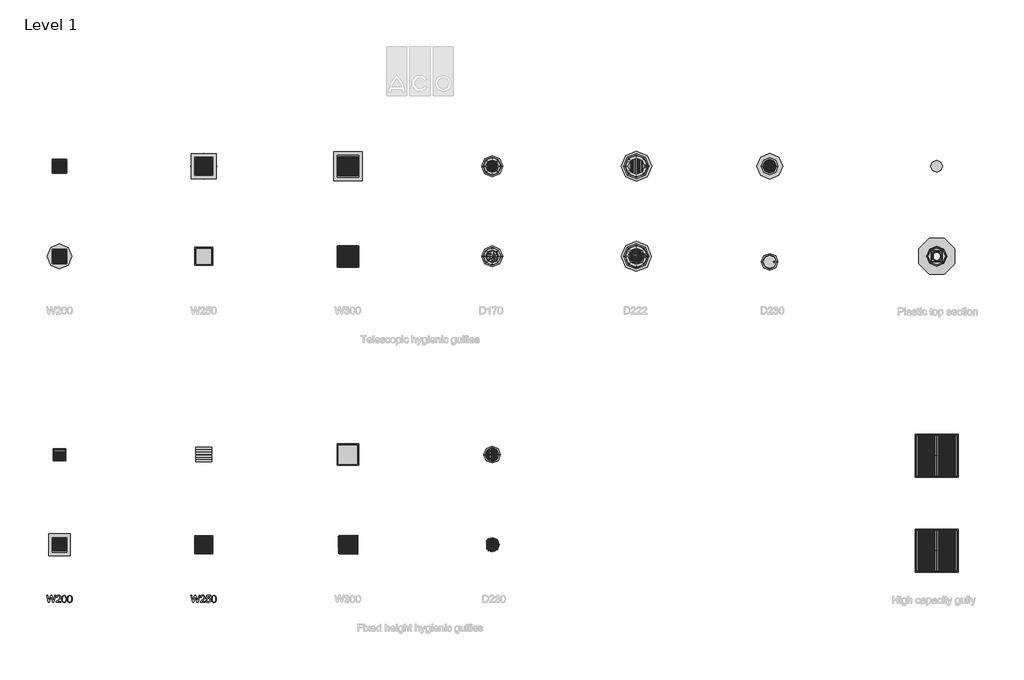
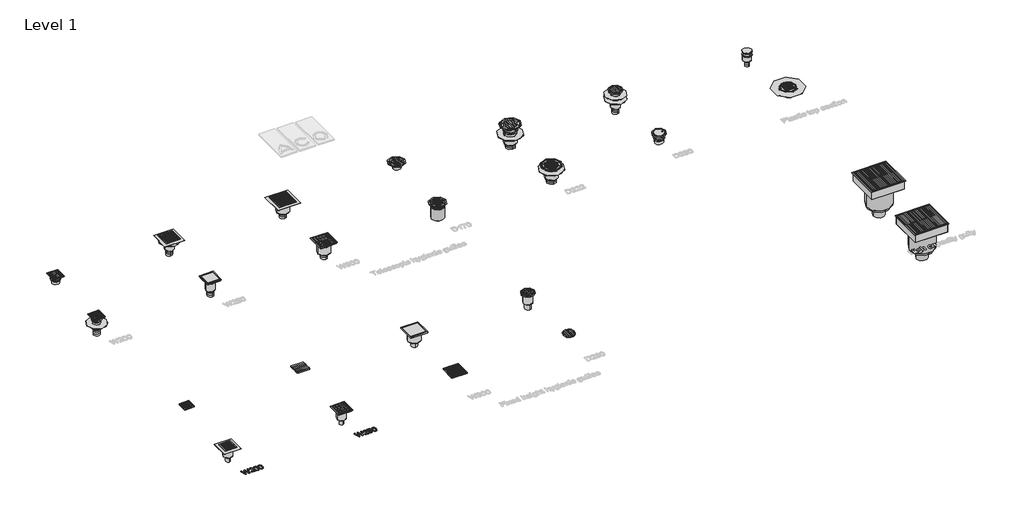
# One storey, part 1 of 4: 69 sanitary terminals, 2 proxies, 1 damper.
"""IFC4 building model written with IfcOpenShell, lengths in millimetres."""

from ifc_helpers import new_model, si_unit, origin, origin_with_axes, place, context, project, spatial, polyline, outline, extrude, transform, mapped, element, save
from components import std_nested_5fa89a83, sanitary_terminal_82e209ba, std_nested_0eeefa5e, std_nested_6499384f, std_nested_efb698b0, std_nested_4763630c, std_nested_079e4442, std_nested_413075a2, std_nested_2be02d67, std_nested_8abb2362, std_nested_245f124b, std_nested_c32a463d, std_nested_9cee5a2e, std_nested_9b02ec69, std_nested_d3c4a1f5, std_nested_b19227e2, std_nested_4e44c4c3, std_nested_489a93e3, std_nested_592c855f, std_nested_7deef7a1, std_nested_e0442021, std_nested_d5818558, std_nested_d116548a, std_nested_70ec9771, std_nested_57f2950a, std_nested_2ee354ad, std_nested_b8717db3, std_nested_406fe5f1, std_nested_98c6a3e6, std_nested_e2511e1a, std_nested_8b3f8c66, std_nested_275881f0, std_nested_45a2f4f4, std_nested_3aef32b5, std_nested_9901e309, std_nested_918f101b, std_nested_27eed14b, std_nested_ff023d64, std_nested_d4b4db04, std_nested_a31448ca, std_nested_1c124e65, std_nested_6d645567, std_nested_c48ed7b9, std_nested_2204cd7f, std_nested_a4153f76, std_nested_3e81e737, std_nested_233757a9, std_nested_0e59ff56

model = new_model("IFC4")

# Units and contexts
model_context = context("Model", 3, world=origin())
ifc_project = project(units=[si_unit("LENGTHUNIT", "METRE", prefix="MILLI")], contexts=[model_context])

# Site, building, storey
site = spatial("IfcSite", under=ifc_project)
building = spatial("IfcBuilding", under=site)
storey = spatial("IfcBuildingStorey", under=building, Name="Level 1", Elevation=0.0)

# Proxies
placement = place(None, origin())
element("IfcBuildingElementProxy", 1, Name="100mm ACO", ObjectType="100mm ACO", at=placement, inside=storey, context=model_context, shape_type="SweptSolid", body=[
    extrude(outline(polyline([(-4051.8518519, -6500.0), (-4078.0092593, -6600.0), (-4093.8657407, -6600.0), (-4113.744213, -6521.1516204), (-4115.7407407, -6511.9502315), (-4118.75, -6523.8136574), (-4139.6990741, -6600.0), (-4153.587963, -6600.0), (-4179.6296296, -6500.0), (-4166.3194444, -6500.0), (-4151.1863426, -6565.6828704), (-4147.3668981, -6584.6643519), (-4142.7083333, -6567.505787), (-4123.8425926, -6500.0), (-4107.494213, -6500.0), (-4093.8078704, -6550.6076389), (-4086.3715278, -6586.1111111), (-4081.25, -6564.3229167), (-4065.2199074, -6500.0), (-4051.8518519, -6500.0)])), origin_with_axes(), (0.0, 0.0, 1.0), 10.0),
    extrude(outline(polyline([(-3981.4814815, -6600.0), (-4048.1481481, -6600.0), (-4042.1875, -6584.4039352), (-4020.1678241, -6562.7893519), (-4002.4016204, -6545.4571759), (-3996.4337384, -6536.4293981), (-3994.4444444, -6527.34375), (-3999.8697917, -6514.380787), (-4013.5706019, -6509.2592593), (-4027.6041667, -6514.3663194), (-4031.8721065, -6520.7356771), (-4033.3333333, -6529.6296296), (-4046.2962963, -6528.2407407), (-4043.1568287, -6516.1385995), (-4036.1111111, -6507.2627315), (-4025.8969907, -6501.8156829), (-4013.2523148, -6500.0), (-3999.89511, -6502.0869502), (-3989.8582176, -6508.3478009), (-3983.5756655, -6517.5600405), (-3981.4814815, -6528.5011574), (-3983.2320602, -6538.4042245), (-3988.4837963, -6548.4375), (-4015.9143519, -6575.9548611), (-4031.4814815, -6590.7407407), (-3981.4814815, -6590.7407407), (-3981.4814815, -6600.0)])), origin_with_axes(), (0.0, 0.0, 1.0), 10.0),
    extrude(outline(polyline([(-3935.2141204, -6500.0), (-3920.6181279, -6503.1864873), (-3910.192419, -6512.7459491), (-3903.9369936, -6528.6783854), (-3901.8518519, -6550.9837963), (-3904.0075231, -6573.4555845), (-3910.474537, -6589.3084491), (-3920.9707755, -6598.7160012), (-3935.2141204, -6601.8518519), (-3949.7847946, -6598.6725984), (-3960.192419, -6589.134838), (-3966.4369936, -6573.2385706), (-3968.5185185, -6550.9837963), (-3966.3628472, -6528.515625), (-3959.8958333, -6512.6157407), (-3949.4140625, -6503.1539352), (-3935.2141204, -6500.0)]), holes=[polyline([(-3935.1851852, -6592.5925926), (-3926.3454861, -6590.1584201), (-3919.9652778, -6582.8559028), (-3916.1024306, -6570.0195312), (-3914.8148148, -6550.9837963), (-3917.0717593, -6526.7650463), (-3923.8859954, -6513.599537), (-3935.3298611, -6509.2592593), (-3944.1514757, -6511.7368345), (-3950.4774306, -6519.1695602), (-3954.2860243, -6532.0782697), (-3955.5555556, -6550.9837963), (-3953.2552083, -6575.0434028), (-3946.4409722, -6588.2523148), (-3935.1851852, -6592.5925926)])]), origin_with_axes(), (0.0, 0.0, 1.0), 10.0),
    extrude(outline(polyline([(-3857.4363426, -6500.0), (-3842.8403501, -6503.1864873), (-3832.4146412, -6512.7459491), (-3826.1592159, -6528.6783854), (-3824.0740741, -6550.9837963), (-3826.2297454, -6573.4555845), (-3832.6967593, -6589.3084491), (-3843.1929977, -6598.7160012), (-3857.4363426, -6601.8518519), (-3872.0070168, -6598.6725984), (-3882.4146412, -6589.134838), (-3888.6592159, -6573.2385706), (-3890.7407407, -6550.9837963), (-3888.5850694, -6528.515625), (-3882.1180556, -6512.6157407), (-3871.6362847, -6503.1539352), (-3857.4363426, -6500.0)]), holes=[polyline([(-3857.4074074, -6592.5925926), (-3848.5677083, -6590.1584201), (-3842.1875, -6582.8559028), (-3838.3246528, -6570.0195312), (-3837.037037, -6550.9837963), (-3839.2939815, -6526.7650463), (-3846.1082176, -6513.599537), (-3857.5520833, -6509.2592593), (-3866.3736979, -6511.7368345), (-3872.6996528, -6519.1695602), (-3876.5082465, -6532.0782697), (-3877.7777778, -6550.9837963), (-3875.4774306, -6575.0434028), (-3868.6631944, -6588.2523148), (-3857.4074074, -6592.5925926)])]), origin_with_axes(), (0.0, 0.0, 1.0), 10.0),
])
element("IfcBuildingElementProxy", 2, Name="100mm ACO", ObjectType="100mm ACO", at=placement, inside=storey, context=model_context, shape_type="SweptSolid", body=[
    extrude(outline(polyline([(-2051.8518519, -6500.0), (-2078.0092593, -6600.0), (-2093.8657407, -6600.0), (-2113.744213, -6521.1516204), (-2115.7407407, -6511.9502315), (-2118.75, -6523.8136574), (-2139.6990741, -6600.0), (-2153.587963, -6600.0), (-2179.6296296, -6500.0), (-2166.3194444, -6500.0), (-2151.1863426, -6565.6828704), (-2147.3668981, -6584.6643519), (-2142.7083333, -6567.505787), (-2123.8425926, -6500.0), (-2107.494213, -6500.0), (-2093.8078704, -6550.6076389), (-2086.3715278, -6586.1111111), (-2081.25, -6564.3229167), (-2065.2199074, -6500.0), (-2051.8518519, -6500.0)])), origin_with_axes(), (0.0, 0.0, 1.0), 10.0),
    extrude(outline(polyline([(-1981.4814815, -6600.0), (-2048.1481481, -6600.0), (-2042.1875, -6584.4039352), (-2020.1678241, -6562.7893519), (-2002.4016204, -6545.4571759), (-1996.4337384, -6536.4293981), (-1994.4444444, -6527.34375), (-1999.8697917, -6514.380787), (-2013.5706019, -6509.2592593), (-2027.6041667, -6514.3663194), (-2031.8721065, -6520.7356771), (-2033.3333333, -6529.6296296), (-2046.2962963, -6528.2407407), (-2043.1568287, -6516.1385995), (-2036.1111111, -6507.2627315), (-2025.8969907, -6501.8156829), (-2013.2523148, -6500.0), (-1999.89511, -6502.0869502), (-1989.8582176, -6508.3478009), (-1983.5756655, -6517.5600405), (-1981.4814815, -6528.5011574), (-1983.2320602, -6538.4042245), (-1988.4837963, -6548.4375), (-2015.9143519, -6575.9548611), (-2031.4814815, -6590.7407407), (-1981.4814815, -6590.7407407), (-1981.4814815, -6600.0)])), origin_with_axes(), (0.0, 0.0, 1.0), 10.0),
    extrude(outline(polyline([(-1951.0416667, -6537.8761574), (-1932.3784722, -6533.3333333), (-1920.8948206, -6535.5577257), (-1910.9809028, -6542.2309028), (-1904.1341146, -6552.6077836), (-1901.8518519, -6565.943287), (-1904.2209201, -6579.7815394), (-1911.328125, -6591.3773148), (-1922.2764757, -6599.2332176), (-1936.1689815, -6601.8518519), (-1947.9094329, -6600.0434028), (-1957.9571759, -6594.6180556), (-1965.198206, -6585.6481481), (-1968.5185185, -6573.2060185), (-1955.5555556, -6572.2222222), (-1948.7847222, -6587.5434028), (-1936.0243056, -6592.5925926), (-1927.4594907, -6590.7190394), (-1920.6886574, -6585.0983796), (-1916.2832755, -6576.7361111), (-1914.8148148, -6566.6377315), (-1916.2868924, -6556.6695602), (-1920.703125, -6549.0451389), (-1927.4341725, -6544.2057292), (-1935.8506944, -6542.5925926), (-1946.1877894, -6544.9435764), (-1953.8194444, -6551.9965278), (-1966.6666667, -6550.4918981), (-1956.9733796, -6501.8518519), (-1905.5555556, -6501.8518519), (-1905.5555556, -6511.1111111), (-1945.6886574, -6511.1111111), (-1951.0416667, -6537.8761574)])), origin_with_axes(), (0.0, 0.0, 1.0), 10.0),
    extrude(outline(polyline([(-1857.4363426, -6500.0), (-1842.8403501, -6503.1864873), (-1832.4146412, -6512.7459491), (-1826.1592159, -6528.6783854), (-1824.0740741, -6550.9837963), (-1826.2297454, -6573.4555845), (-1832.6967593, -6589.3084491), (-1843.1929977, -6598.7160012), (-1857.4363426, -6601.8518519), (-1872.0070168, -6598.6725984), (-1882.4146412, -6589.134838), (-1888.6592159, -6573.2385706), (-1890.7407407, -6550.9837963), (-1888.5850694, -6528.515625), (-1882.1180556, -6512.6157407), (-1871.6362847, -6503.1539352), (-1857.4363426, -6500.0)]), holes=[polyline([(-1857.4074074, -6592.5925926), (-1848.5677083, -6590.1584201), (-1842.1875, -6582.8559028), (-1838.3246528, -6570.0195312), (-1837.037037, -6550.9837963), (-1839.2939815, -6526.7650463), (-1846.1082176, -6513.599537), (-1857.5520833, -6509.2592593), (-1866.3736979, -6511.7368345), (-1872.6996528, -6519.1695602), (-1876.5082465, -6532.0782697), (-1877.7777778, -6550.9837963), (-1875.4774306, -6575.0434028), (-1868.6631944, -6588.2523148), (-1857.4074074, -6592.5925926)])]), origin_with_axes(), (0.0, 0.0, 1.0), 10.0),
])

# Damper
std_nested_shape = std_nested_5fa89a83(model_context)
element("IfcDamper", 3, ObjectType="ZZZ_do_not_use_PIA_GEN_UN_fire resistant kit for hygienic gullies_ACO : std (nested)", at=placement, inside=storey, context=model_context, shape_type="MappedRepresentation", body=[
    mapped(std_nested_shape, transform((2000.0, -1800.0, -60.0), x_axis=(1.0, 0.0, 0.0), y_axis=(0.0, 1.0, 0.0), z_axis=(0.0, 0.0, 1.0))),
])

# Sanitary terminals
sanitary_terminal_shape = sanitary_terminal_82e209ba(model_context)
element("IfcSanitaryTerminal", 4, ObjectType="PF_ST_UN_fixed height hygienic gully D230_ACO : D230 grade 1.4301 fixed-height round hygienic gully 157 outlet 110", at=placement, inside=storey, context=model_context, shape_type="MappedRepresentation", body=[
    mapped(sanitary_terminal_shape, transform((2000.0, -5800.0, 0.0), x_axis=(1.0, 0.0, 0.0), y_axis=(0.0, 1.0, 0.0), z_axis=(0.0, 0.0, 1.0))),
])
element("IfcSanitaryTerminal", 5, ObjectType="PF_ST_UN_fixed height hygienic gully D230_ACO : D230 grade 1.4404 fixed-height round hygienic gully 157 outlet 110", at=placement, inside=storey, context=model_context, shape_type="MappedRepresentation", body=[
    mapped(sanitary_terminal_shape, transform((2000.0, -4550.0, 0.0), x_axis=(1.0, 0.0, 0.0), y_axis=(0.0, 1.0, 0.0), z_axis=(0.0, 0.0, 1.0))),
])
element("IfcSanitaryTerminal", 6, ObjectType="PF_ST_UN_fixed height hygienic gully W200_ACO : W200 grade 1.4301 fixed height hygienic gully 142 outlet 75", at=placement, inside=storey, context=model_context, shape_type="MappedRepresentation", body=[
    mapped(sanitary_terminal_shape, transform((-4000.0, -4550.0, 0.0), x_axis=(1.0, 0.0, 0.0), y_axis=(0.0, 1.0, 0.0), z_axis=(0.0, 0.0, 1.0))),
])
element("IfcSanitaryTerminal", 7, ObjectType="PF_ST_UN_fixed height hygienic gully W200_ACO : W200 grade 1.4404 fixed height hygienic gully 157 outlet 75", at=placement, inside=storey, context=model_context, shape_type="MappedRepresentation", body=[
    mapped(sanitary_terminal_shape, transform((-4000.0, -5800.0, 0.0), x_axis=(1.0, 0.0, 0.0), y_axis=(0.0, 1.0, 0.0), z_axis=(0.0, 0.0, 1.0))),
])
element("IfcSanitaryTerminal", 8, ObjectType="PF_ST_UN_fixed height hygienic gully W250_ACO : W250 grade 1.4301 fixed height hygienic gully 157 outlet 75", at=placement, inside=storey, context=model_context, shape_type="MappedRepresentation", body=[
    mapped(sanitary_terminal_shape, transform((-2000.0, -5800.0, 0.0), x_axis=(1.0, 0.0, 0.0), y_axis=(0.0, 1.0, 0.0), z_axis=(0.0, 0.0, 1.0))),
])
element("IfcSanitaryTerminal", 9, ObjectType="PF_ST_UN_fixed height hygienic gully W250_ACO : W250 grade 1.4301 fixed height hygienic gully 157 outlet 75", at=placement, inside=storey, context=model_context, shape_type="MappedRepresentation", body=[
    mapped(sanitary_terminal_shape, transform((-2000.0, -4550.0, 0.0), x_axis=(1.0, 0.0, 0.0), y_axis=(0.0, 1.0, 0.0), z_axis=(0.0, 0.0, 1.0))),
])
element("IfcSanitaryTerminal", 10, ObjectType="PF_ST_UN_fixed height hygienic gully W300_ACO : W300 grade 1.4301 fixed height hygienic gully 218 outlet 110", at=placement, inside=storey, context=model_context, shape_type="MappedRepresentation", body=[
    mapped(sanitary_terminal_shape, transform((0.0, -4550.0, 0.0), x_axis=(1.0, 0.0, 0.0), y_axis=(0.0, 1.0, 0.0), z_axis=(0.0, 0.0, 1.0))),
])
element("IfcSanitaryTerminal", 11, ObjectType="PF_ST_UN_fixed height hygienic gully W300_ACO : W300 grade 1.4301 fixed height hygienic gully 218 outlet 110", at=placement, inside=storey, context=model_context, shape_type="MappedRepresentation", body=[
    mapped(sanitary_terminal_shape, transform((0.0, -5800.0, 0.0), x_axis=(1.0, 0.0, 0.0), y_axis=(0.0, 1.0, 0.0), z_axis=(0.0, 0.0, 1.0))),
])
element("IfcSanitaryTerminal", 12, ObjectType="PF_ST_UN_hygienic high capacity gully_ACO : W600 grade 1.4301 hygienic high capacity gully outlet 200", at=placement, inside=storey, context=model_context, shape_type="MappedRepresentation", body=[
    mapped(sanitary_terminal_shape, transform((8164.9259852, -5881.6953202, 0.0), x_axis=(1.0, 0.0, 0.0), y_axis=(0.0, 1.0, 0.0), z_axis=(0.0, 0.0, 1.0))),
])
element("IfcSanitaryTerminal", 13, ObjectType="PF_ST_UN_hygienic high capacity gully_ACO : W600 grade 1.4404 hygienic high capacity gully outlet 200", at=placement, inside=storey, context=model_context, shape_type="MappedRepresentation", body=[
    mapped(sanitary_terminal_shape, transform((8164.9259852, -4563.6158867, 0.0), x_axis=(1.0, 0.0, 0.0), y_axis=(0.0, 1.0, 0.0), z_axis=(0.0, 0.0, 1.0))),
])
std_nested_2_shape = std_nested_0eeefa5e(model_context)
element("IfcSanitaryTerminal", 14, ObjectType="ZZZ_do not use_PF_ST_UN_round grating for vinyl top_ACO : std (nested)", at=placement, inside=storey, context=model_context, shape_type="MappedRepresentation", body=[
    mapped(std_nested_2_shape, transform((2000.0, -1800.0, 0.0), x_axis=(1.0, 0.0, 0.0), y_axis=(0.0, 1.0, 0.0), z_axis=(0.0, 0.0, 1.0))),
])
std_nested_3_shape = std_nested_6499384f(model_context)
element("IfcSanitaryTerminal", 15, ObjectType="ZZZ_do not use_PF_ST_UN_round grating for vinyl top_ACO : std (nested)", at=placement, inside=storey, context=model_context, shape_type="MappedRepresentation", body=[
    mapped(std_nested_3_shape, transform((4000.0, -1800.0, 0.0), x_axis=(1.0, 0.0, 0.0), y_axis=(0.0, 1.0, 0.0), z_axis=(0.0, 0.0, 1.0))),
])
std_nested_4_shape = std_nested_efb698b0(model_context)
element("IfcSanitaryTerminal", 16, ObjectType="ZZZ_do not use_PF_ST_UN_round grating for vinyl top_ACO : std (nested)", at=placement, inside=storey, context=model_context, shape_type="MappedRepresentation", body=[
    mapped(std_nested_4_shape, transform((2000.0, -550.0, 0.0), x_axis=(1.0, 0.0, 0.0), y_axis=(0.0, 1.0, 0.0), z_axis=(0.0, 0.0, 1.0))),
])
std_nested_5_shape = std_nested_4763630c(model_context)
element("IfcSanitaryTerminal", 17, ObjectType="ZZZ_do not use_PF_ST_UN_round grating for vinyl top_ACO : std (nested)", at=placement, inside=storey, context=model_context, shape_type="MappedRepresentation", body=[
    mapped(std_nested_5_shape, transform((4000.0, -550.0, 0.0), x_axis=(1.0, 0.0, 0.0), y_axis=(0.0, 1.0, 0.0), z_axis=(0.0, 0.0, 1.0))),
])
std_nested_6_shape = std_nested_079e4442(model_context)
element("IfcSanitaryTerminal", 18, ObjectType="ZZZ_do not use_PF_ST_UN_square grating for hygienic gully_ACO : std (nested)", at=placement, inside=storey, context=model_context, shape_type="MappedRepresentation", body=[
    mapped(std_nested_6_shape, transform((-2000.0, -5800.0, 0.0), x_axis=(1.0, 0.0, 0.0), y_axis=(0.0, 1.0, 0.0), z_axis=(0.0, 0.0, 1.0))),
])
std_nested_7_shape = std_nested_413075a2(model_context)
element("IfcSanitaryTerminal", 19, ObjectType="ZZZ_do not use_PF_ST_UN_square grating for hygienic gully_ACO : std (nested)", at=placement, inside=storey, context=model_context, shape_type="MappedRepresentation", body=[
    mapped(std_nested_7_shape, transform((-4000.0, -1800.0, 0.0), x_axis=(1.0, 0.0, 0.0), y_axis=(0.0, 1.0, 0.0), z_axis=(0.0, 0.0, 1.0))),
])
std_nested_8_shape = std_nested_2be02d67(model_context)
element("IfcSanitaryTerminal", 20, ObjectType="ZZZ_do not use_PF_ST_UN_square grating for hygienic gully_ACO : std (nested)", at=placement, inside=storey, context=model_context, shape_type="MappedRepresentation", body=[
    mapped(std_nested_8_shape, transform((-2000.0, -1800.0, 0.0), x_axis=(1.0, 0.0, 0.0), y_axis=(0.0, 1.0, 0.0), z_axis=(0.0, 0.0, 1.0))),
])
std_nested_9_shape = std_nested_8abb2362(model_context)
element("IfcSanitaryTerminal", 21, ObjectType="ZZZ_do not use_PF_ST_UN_square grating for hygienic gully_ACO : std (nested)", at=placement, inside=storey, context=model_context, shape_type="MappedRepresentation", body=[
    mapped(std_nested_9_shape, transform((0.0, -1800.0, 0.0), x_axis=(1.0, 0.0, 0.0), y_axis=(0.0, 1.0, 0.0), z_axis=(0.0, 0.0, 1.0))),
])
std_nested_10_shape = std_nested_245f124b(model_context)
element("IfcSanitaryTerminal", 22, ObjectType="ZZZ_do not use_PF_ST_UN_square grating for hygienic gully_ACO : std (nested)", at=placement, inside=storey, context=model_context, shape_type="MappedRepresentation", body=[
    mapped(std_nested_10_shape, transform((-4000.0, -4550.0, 0.0), x_axis=(1.0, 0.0, 0.0), y_axis=(0.0, 1.0, 0.0), z_axis=(0.0, 0.0, 1.0))),
])
std_nested_11_shape = std_nested_c32a463d(model_context)
element("IfcSanitaryTerminal", 23, ObjectType="ZZZ_do not use_PF_ST_UN_square grating for hygienic gully_ACO : std (nested)", at=placement, inside=storey, context=model_context, shape_type="MappedRepresentation", body=[
    mapped(std_nested_11_shape, transform((-2000.0, -4550.0, 0.0), x_axis=(1.0, 0.0, 0.0), y_axis=(0.0, 1.0, 0.0), z_axis=(0.0, 0.0, 1.0))),
])
std_nested_12_shape = std_nested_9cee5a2e(model_context)
element("IfcSanitaryTerminal", 24, ObjectType="ZZZ_do not use_PF_ST_UN_square grating for hygienic gully_ACO : std (nested)", at=placement, inside=storey, context=model_context, shape_type="MappedRepresentation", body=[
    mapped(std_nested_12_shape, transform((-4000.0, -550.0, 0.0), x_axis=(1.0, 0.0, 0.0), y_axis=(0.0, 1.0, 0.0), z_axis=(0.0, 0.0, 1.0))),
])
std_nested_13_shape = std_nested_9b02ec69(model_context)
element("IfcSanitaryTerminal", 25, ObjectType="ZZZ_do not use_PF_ST_UN_square grating for hygienic gully_ACO : std (nested)", at=placement, inside=storey, context=model_context, shape_type="MappedRepresentation", body=[
    mapped(std_nested_13_shape, transform((-2000.0, -550.0, 0.0), x_axis=(1.0, 0.0, 0.0), y_axis=(0.0, 1.0, 0.0), z_axis=(0.0, 0.0, 1.0))),
])
std_nested_14_shape = std_nested_d3c4a1f5(model_context)
element("IfcSanitaryTerminal", 26, ObjectType="ZZZ_do not use_PF_ST_UN_square grating for hygienic gully_ACO : std (nested)", at=placement, inside=storey, context=model_context, shape_type="MappedRepresentation", body=[
    mapped(std_nested_14_shape, transform((0.0, -550.0, 0.0), x_axis=(1.0, 0.0, 0.0), y_axis=(0.0, 1.0, 0.0), z_axis=(0.0, 0.0, 1.0))),
])
std_nested_15_shape = std_nested_b19227e2(model_context)
element("IfcSanitaryTerminal", 27, ObjectType="ZZZ_do not use_PF_ST_UN_telescopic gully top_ACO : std (nested)", at=placement, inside=storey, context=model_context, shape_type="MappedRepresentation", body=[
    mapped(std_nested_15_shape, transform((-4000.0, -1800.0, 0.0), x_axis=(1.0, 0.0, 0.0), y_axis=(0.0, 1.0, 0.0), z_axis=(0.0, 0.0, 1.0))),
])
std_nested_16_shape = std_nested_4e44c4c3(model_context)
element("IfcSanitaryTerminal", 28, ObjectType="ZZZ_do not use_PF_ST_UN_telescopic gully top_ACO : std (nested)", at=placement, inside=storey, context=model_context, shape_type="MappedRepresentation", body=[
    mapped(std_nested_16_shape, transform((-2000.0, -1800.0, 0.0), x_axis=(1.0, 0.0, 0.0), y_axis=(0.0, 1.0, 0.0), z_axis=(0.0, 0.0, 1.0))),
])
std_nested_17_shape = std_nested_489a93e3(model_context)
element("IfcSanitaryTerminal", 29, ObjectType="ZZZ_do not use_PF_ST_UN_telescopic gully top_ACO : std (nested)", at=placement, inside=storey, context=model_context, shape_type="MappedRepresentation", body=[
    mapped(std_nested_17_shape, transform((0.0, -1800.0, 0.0), x_axis=(1.0, 0.0, 0.0), y_axis=(0.0, 1.0, 0.0), z_axis=(0.0, 0.0, 1.0))),
])
element("IfcSanitaryTerminal", 30, ObjectType="ZZZ_do not use_PF_ST_UN_telescopic gully top_ACO : std (nested)", at=placement, inside=storey, context=model_context, shape_type="MappedRepresentation", body=[
    mapped(std_nested_15_shape, transform((-4000.0, -550.0, 0.0), x_axis=(1.0, 0.0, 0.0), y_axis=(0.0, 1.0, 0.0), z_axis=(0.0, 0.0, 1.0))),
])
std_nested_18_shape = std_nested_592c855f(model_context)
element("IfcSanitaryTerminal", 31, ObjectType="ZZZ_do not use_PF_ST_UN_telescopic gully top_ACO : std (nested)", at=placement, inside=storey, context=model_context, shape_type="MappedRepresentation", body=[
    mapped(std_nested_18_shape, transform((-2000.0, -550.0, 0.0), x_axis=(1.0, 0.0, 0.0), y_axis=(0.0, 1.0, 0.0), z_axis=(0.0, 0.0, 1.0))),
])
std_nested_19_shape = std_nested_7deef7a1(model_context)
element("IfcSanitaryTerminal", 32, ObjectType="ZZZ_do not use_PF_ST_UN_telescopic gully top_ACO : std (nested)", at=placement, inside=storey, context=model_context, shape_type="MappedRepresentation", body=[
    mapped(std_nested_19_shape, transform((0.0, -550.0, 0.0), x_axis=(1.0, 0.0, 0.0), y_axis=(0.0, 1.0, 0.0), z_axis=(0.0, 0.0, 1.0))),
])
std_nested_20_shape = std_nested_e0442021(model_context)
element("IfcSanitaryTerminal", 33, ObjectType="ZZZ_do not use_PF_ST_UN_telescopic hygienic gully_ACO : std (nested)", at=placement, inside=storey, context=model_context, shape_type="MappedRepresentation", body=[
    mapped(std_nested_20_shape, transform((-4000.0, -1800.0, -139.5), x_axis=(0.7071067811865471, 0.7071067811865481, 0.0), y_axis=(-0.7071067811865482, 0.7071067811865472, 0.0), z_axis=(0.0, 0.0, 1.0000000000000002))),
])
std_nested_21_shape = std_nested_d5818558(model_context)
element("IfcSanitaryTerminal", 34, ObjectType="ZZZ_do not use_PF_ST_UN_telescopic hygienic gully_ACO : std (nested)", at=placement, inside=storey, context=model_context, shape_type="MappedRepresentation", body=[
    mapped(std_nested_21_shape, transform((-2000.0, -1800.0, -56.5), x_axis=(1.0, 0.0, 0.0), y_axis=(0.0, 1.0, 0.0), z_axis=(0.0, 0.0, 1.0))),
])
std_nested_22_shape = std_nested_d116548a(model_context)
element("IfcSanitaryTerminal", 35, ObjectType="ZZZ_do not use_PF_ST_UN_telescopic hygienic gully_ACO : std (nested)", at=placement, inside=storey, context=model_context, shape_type="MappedRepresentation", body=[
    mapped(std_nested_22_shape, transform((0.0, -1800.0, -56.5), x_axis=(1.0, 0.0, 0.0), y_axis=(0.0, 1.0, 0.0), z_axis=(0.0, 0.0, 1.0))),
])
element("IfcSanitaryTerminal", 36, ObjectType="ZZZ_do not use_PF_ST_UN_telescopic hygienic gully_ACO : std (nested)", at=placement, inside=storey, context=model_context, shape_type="MappedRepresentation", body=[
    mapped(std_nested_22_shape, transform((0.0, -550.0, -57.5), x_axis=(1.0, 0.0, 0.0), y_axis=(0.0, 1.0, 0.0), z_axis=(0.0, 0.0, 1.0))),
])
std_nested_23_shape = std_nested_70ec9771(model_context)
element("IfcSanitaryTerminal", 37, ObjectType="ZZZ_do not use_PF_ST_UN_telescopic hygienic gully_ACO : std (nested)", at=placement, inside=storey, context=model_context, shape_type="MappedRepresentation", body=[
    mapped(std_nested_23_shape, transform((2000.0, -1800.0, -58.5), x_axis=(1.0, 0.0, 0.0), y_axis=(0.0, 1.0, 0.0), z_axis=(0.0, 0.0, 1.0))),
])
std_nested_24_shape = std_nested_57f2950a(model_context)
element("IfcSanitaryTerminal", 38, ObjectType="ZZZ_do not use_PF_ST_UN_telescopic hygienic gully_ACO : std (nested)", at=placement, inside=storey, context=model_context, shape_type="MappedRepresentation", body=[
    mapped(std_nested_24_shape, transform((-2000.0, -550.0, -56.5), x_axis=(1.0, 0.0, 0.0), y_axis=(0.0, 1.0, 0.0), z_axis=(0.0, 0.0, 1.0))),
])
std_nested_25_shape = std_nested_2ee354ad(model_context)
element("IfcSanitaryTerminal", 39, ObjectType="ZZZ_do not use_PF_ST_UN_telescopic hygienic gully_ACO : std (nested)", at=placement, inside=storey, context=model_context, shape_type="MappedRepresentation", body=[
    mapped(std_nested_25_shape, transform((4000.0, -550.0, -173.0), x_axis=(1.0, 0.0, 0.0), y_axis=(0.0, 1.0, 0.0), z_axis=(0.0, 0.0, 1.0))),
])
std_nested_26_shape = std_nested_b8717db3(model_context)
element("IfcSanitaryTerminal", 40, ObjectType="ZZZ_do not use_PF_ST_UN_telescopic hygienic gully_ACO : std (nested)", at=placement, inside=storey, context=model_context, shape_type="MappedRepresentation", body=[
    mapped(std_nested_26_shape, transform((8164.9259852, -550.0, -160.5), x_axis=(1.0, 0.0, 0.0), y_axis=(0.0, 1.0, 0.0), z_axis=(0.0, 0.0, 1.0))),
])
std_nested_27_shape = std_nested_406fe5f1(model_context)
element("IfcSanitaryTerminal", 41, ObjectType="ZZZ_do not use_PF_ST_UN_raising piece telescopic hygienic gully_ACO : std (nested)", at=placement, inside=storey, context=model_context, shape_type="MappedRepresentation", body=[
    mapped(std_nested_27_shape, transform((-4000.0, -1800.0, -71.0), x_axis=(0.0, -1.0, 0.0), y_axis=(1.0, 0.0, 0.0), z_axis=(0.0, 0.0, 1.0))),
])
element("IfcSanitaryTerminal", 42, ObjectType="ZZZ_do not use_PF_ST_UN_raising piece telescopic hygienic gully_ACO : std (nested)", at=placement, inside=storey, context=model_context, shape_type="MappedRepresentation", body=[
    mapped(std_nested_27_shape, transform((8164.9259852, -550.0, -92.0), x_axis=(1.0, 0.0, 0.0), y_axis=(0.0, 1.0, 0.0), z_axis=(0.0, 0.0, 1.0))),
])
element("IfcSanitaryTerminal", 43, ObjectType="ZZZ_do not use_PF_ST_UN_raising piece telescopic hygienic gully_ACO : std (nested)", at=placement, inside=storey, context=model_context, shape_type="MappedRepresentation", body=[
    mapped(std_nested_27_shape, transform((-4000.0, -550.0, -71.0), x_axis=(0.0, -1.0, 0.0), y_axis=(1.0, 0.0, 0.0), z_axis=(0.0, 0.0, 1.0))),
])
std_nested_28_shape = std_nested_98c6a3e6(model_context)
element("IfcSanitaryTerminal", 44, ObjectType="ZZZ_do not use_PF_ST_UN_raising piece telescopic hygienic gully_ACO : std (nested)", at=placement, inside=storey, context=model_context, shape_type="MappedRepresentation", body=[
    mapped(std_nested_28_shape, transform((4000.0, -550.0, -92.0), x_axis=(0.0, -1.0, 0.0), y_axis=(1.0, 0.0, 0.0), z_axis=(0.0, 0.0, 1.0))),
])
std_nested_29_shape = std_nested_e2511e1a(model_context)
element("IfcSanitaryTerminal", 45, ObjectType="ZZZ_do not use_PF_GEN_UN_telescopic plastic gully top_ACO : std (nested)", at=placement, inside=storey, context=model_context, shape_type="MappedRepresentation", body=[
    mapped(std_nested_29_shape, transform((8164.9259852, -1800.0, 0.0), x_axis=(1.0, 0.0, 0.0), y_axis=(0.0, 1.0, 0.0), z_axis=(0.0, 0.0, 1.0))),
])
std_nested_30_shape = std_nested_8b3f8c66(model_context)
element("IfcSanitaryTerminal", 46, ObjectType="ZZZ_do not use_PF_ST_UN_high capacity gully_ACO : std (nested)", at=placement, inside=storey, context=model_context, shape_type="MappedRepresentation", body=[
    mapped(std_nested_30_shape, transform((8164.9259852, -5881.6953202, 0.0), x_axis=(1.0, 0.0, 0.0), y_axis=(0.0, 1.0, 0.0), z_axis=(0.0, 0.0, 1.0))),
])
element("IfcSanitaryTerminal", 47, ObjectType="ZZZ_do not use_PF_ST_UN_high capacity gully_ACO : std (nested)", at=placement, inside=storey, context=model_context, shape_type="MappedRepresentation", body=[
    mapped(std_nested_30_shape, transform((8164.9259852, -4563.6158867, 0.0), x_axis=(1.0, 0.0, 0.0), y_axis=(0.0, 1.0, 0.0), z_axis=(0.0, 0.0, 1.0))),
])
std_nested_31_shape = std_nested_275881f0(model_context)
element("IfcSanitaryTerminal", 48, ObjectType="ZZZ_do not use_PF_GEN_UN_round telescopic gully top_ACO : std (nested)", at=placement, inside=storey, context=model_context, shape_type="MappedRepresentation", body=[
    mapped(std_nested_31_shape, transform((2000.0, -1800.0, 0.0), x_axis=(1.0, 0.0, 0.0), y_axis=(0.0, 1.0, 0.0), z_axis=(0.0, 0.0, 1.0))),
])
std_nested_32_shape = std_nested_45a2f4f4(model_context)
element("IfcSanitaryTerminal", 49, ObjectType="ZZZ_do not use_PF_GEN_UN_round telescopic gully top_ACO : std (nested)", at=placement, inside=storey, context=model_context, shape_type="MappedRepresentation", body=[
    mapped(std_nested_32_shape, transform((4000.0, -1800.0, 0.0), x_axis=(1.0, 0.0, 0.0), y_axis=(0.0, 1.0, 0.0), z_axis=(0.0, 0.0, 1.0))),
])
element("IfcSanitaryTerminal", 50, ObjectType="ZZZ_do not use_PF_GEN_UN_round telescopic gully top_ACO : std (nested)", at=placement, inside=storey, context=model_context, shape_type="MappedRepresentation", body=[
    mapped(std_nested_31_shape, transform((2000.0, -550.0, 0.0), x_axis=(1.0, 0.0, 0.0), y_axis=(0.0, 1.0, 0.0), z_axis=(0.0, 0.0, 1.0))),
])
element("IfcSanitaryTerminal", 51, ObjectType="ZZZ_do not use_PF_GEN_UN_round telescopic gully top_ACO : std (nested)", at=placement, inside=storey, context=model_context, shape_type="MappedRepresentation", body=[
    mapped(std_nested_32_shape, transform((4000.0, -550.0, 0.0), x_axis=(1.0, 0.0, 0.0), y_axis=(0.0, 1.0, 0.0), z_axis=(0.0, 0.0, 1.0))),
])
std_nested_33_shape = std_nested_3aef32b5(model_context)
element("IfcSanitaryTerminal", 52, ObjectType="ZZZ_do not use_PF_ST_UN_grating for high capacity gully_ACO : std (nested)", at=placement, inside=storey, context=model_context, shape_type="MappedRepresentation", body=[
    mapped(std_nested_33_shape, transform((8022.4259852, -5881.6953202, 0.0), x_axis=(1.0, 0.0, 0.0), y_axis=(0.0, 1.0, 0.0), z_axis=(0.0, 0.0, 1.0))),
])
element("IfcSanitaryTerminal", 53, ObjectType="ZZZ_do not use_PF_ST_UN_grating for high capacity gully_ACO : std (nested)", at=placement, inside=storey, context=model_context, shape_type="MappedRepresentation", body=[
    mapped(std_nested_33_shape, transform((8307.4259852, -5881.6953202, 0.0), x_axis=(1.0, 0.0, 0.0), y_axis=(0.0, 1.0, 0.0), z_axis=(0.0, 0.0, 1.0))),
])
element("IfcSanitaryTerminal", 54, ObjectType="ZZZ_do not use_PF_ST_UN_grating for high capacity gully_ACO : std (nested)", at=placement, inside=storey, context=model_context, shape_type="MappedRepresentation", body=[
    mapped(std_nested_33_shape, transform((8022.4259852, -4563.6158867, 0.0), x_axis=(1.0, 0.0, 0.0), y_axis=(0.0, 1.0, 0.0), z_axis=(0.0, 0.0, 1.0))),
])
element("IfcSanitaryTerminal", 55, ObjectType="ZZZ_do not use_PF_ST_UN_grating for high capacity gully_ACO : std (nested)", at=placement, inside=storey, context=model_context, shape_type="MappedRepresentation", body=[
    mapped(std_nested_33_shape, transform((8307.4259852, -4563.6158867, 0.0), x_axis=(1.0, 0.0, 0.0), y_axis=(0.0, 1.0, 0.0), z_axis=(0.0, 0.0, 1.0))),
])
std_nested_34_shape = std_nested_9901e309(model_context)
element("IfcSanitaryTerminal", 56, ObjectType="ZZZ_do not use_PF_ST_UN_telescopic gully top round_ACO : std (nested)", at=placement, inside=storey, context=model_context, shape_type="MappedRepresentation", body=[
    mapped(std_nested_34_shape, transform((5849.1277911, -1875.8999063, 0.0), x_axis=(1.0, 0.0, 0.0), y_axis=(0.0, 1.0, 0.0), z_axis=(0.0, 0.0, 1.0))),
])
element("IfcSanitaryTerminal", 57, ObjectType="ZZZ_do not use_PF_ST_UN_telescopic gully top round_ACO : std (nested)", at=placement, inside=storey, context=model_context, shape_type="MappedRepresentation", body=[
    mapped(std_nested_34_shape, transform((5849.1277911, -549.8309408, 0.0), x_axis=(1.0, 0.0, 0.0), y_axis=(0.0, 1.0, 0.0), z_axis=(0.0, 0.0, 1.0))),
])
std_nested_35_shape = std_nested_918f101b(model_context)
element("IfcSanitaryTerminal", 58, ObjectType="ZZZ_do not use_PF_ST_UN_raising piece telescopic hygienic gully_ACO : std (nested)", at=placement, inside=storey, context=model_context, shape_type="MappedRepresentation", body=[
    mapped(std_nested_35_shape, transform((5849.1277911, -549.8309408, -84.0), x_axis=(0.0, -1.0, 0.0), y_axis=(1.0, 0.0, 0.0), z_axis=(0.0, 0.0, 1.0))),
])
std_nested_36_shape = std_nested_27eed14b(model_context)
element("IfcSanitaryTerminal", 59, ObjectType="ZZZ_do not use_PF_ST_UN_raising piece telescopic hygienic gully_ACO : std (nested)", at=placement, inside=storey, context=model_context, shape_type="MappedRepresentation", body=[
    mapped(std_nested_36_shape, transform((5849.1277911, -1875.8999063, -84.0), x_axis=(0.0, -1.0, 0.0), y_axis=(1.0, 0.0, 0.0), z_axis=(0.0, 0.0, 1.0))),
])
element("IfcSanitaryTerminal", 60, ObjectType="ZZZ_do not use_PF_ST_UN_telescopic hygienic gully_ACO : std (nested)", at=placement, inside=storey, context=model_context, shape_type="MappedRepresentation", body=[
    mapped(std_nested_24_shape, transform((5849.1277911, -549.8309408, -163.5), x_axis=(1.0, 0.0, 0.0), y_axis=(0.0, 1.0, 0.0), z_axis=(0.0, 0.0, 1.0))),
])
std_nested_37_shape = std_nested_ff023d64(model_context)
element("IfcSanitaryTerminal", 61, ObjectType="ZZZ_do not use_PF_ST_UN_fixed height hygienic gully_ACO : std (nested)", at=placement, inside=storey, context=model_context, shape_type="MappedRepresentation", body=[
    mapped(std_nested_37_shape, transform((-4000.0, -5800.0, 0.0), x_axis=(1.0, 0.0, 0.0), y_axis=(0.0, 1.0, 0.0), z_axis=(0.0, 0.0, 1.0))),
])
std_nested_38_shape = std_nested_d4b4db04(model_context)
element("IfcSanitaryTerminal", 62, ObjectType="ZZZ_do not use_PF_ST_UN_fixed height hygienic gully_ACO : std (nested)", at=placement, inside=storey, context=model_context, shape_type="MappedRepresentation", body=[
    mapped(std_nested_38_shape, transform((-2000.0, -5800.0, 0.0), x_axis=(1.0, 0.0, 0.0), y_axis=(0.0, 1.0, 0.0), z_axis=(0.0, 0.0, 1.0))),
])
std_nested_39_shape = std_nested_a31448ca(model_context)
element("IfcSanitaryTerminal", 63, ObjectType="ZZZ_do not use_PF_ST_UN_square grating for hygienic gully_ACO : std (nested)", at=placement, inside=storey, context=model_context, shape_type="MappedRepresentation", body=[
    mapped(std_nested_39_shape, transform((0.0, -4550.0, 0.0), x_axis=(1.0, 0.0, 0.0), y_axis=(0.0, 1.0, 0.0), z_axis=(0.0, 0.0, 1.0))),
])
std_nested_40_shape = std_nested_1c124e65(model_context)
element("IfcSanitaryTerminal", 64, ObjectType="ZZZ_do not use_PF_ST_UN_fixed height hygienic gully_ACO : std (nested)", at=placement, inside=storey, context=model_context, shape_type="MappedRepresentation", body=[
    mapped(std_nested_40_shape, transform((0.0, -4550.0, 0.0), x_axis=(1.0, 0.0, 0.0), y_axis=(0.0, 1.0, 0.0), z_axis=(0.0, 0.0, 1.0))),
])
std_nested_41_shape = std_nested_6d645567(model_context)
element("IfcSanitaryTerminal", 65, ObjectType="ZZZ_do not use_PF_ST_UN_square grating for hygienic gully_ACO : std (nested)", at=placement, inside=storey, context=model_context, shape_type="MappedRepresentation", body=[
    mapped(std_nested_41_shape, transform((-4000.0, -5800.0, 0.0), x_axis=(1.0, 0.0, 0.0), y_axis=(0.0, 1.0, 0.0), z_axis=(0.0, 0.0, 1.0))),
])
std_nested_42_shape = std_nested_c48ed7b9(model_context)
element("IfcSanitaryTerminal", 66, ObjectType="ZZZ_do not use_PF_ST_UN_telescopic hygienic gully_ACO : std (nested)", at=placement, inside=storey, context=model_context, shape_type="MappedRepresentation", body=[
    mapped(std_nested_42_shape, transform((4000.0, -1800.0, -61.0), x_axis=(1.0, 0.0, 0.0), y_axis=(0.0, 1.0, 0.0), z_axis=(0.0, 0.0, 1.0))),
])
std_nested_43_shape = std_nested_2204cd7f(model_context)
element("IfcSanitaryTerminal", 67, ObjectType="ZZZ_do not use_PF_ST_UN_round grating for hygienic gully_ACO : std (nested)", at=placement, inside=storey, context=model_context, shape_type="MappedRepresentation", body=[
    mapped(std_nested_43_shape, transform((2000.0, -5800.0, 0.0), x_axis=(1.0, 0.0, 0.0), y_axis=(0.0, 1.0, 0.0), z_axis=(0.0, 0.0, 1.0))),
])
element("IfcSanitaryTerminal", 68, ObjectType="ZZZ_do not use_PF_ST_UN_round grating for hygienic gully_ACO : std (nested)", at=placement, inside=storey, context=model_context, shape_type="MappedRepresentation", body=[
    mapped(std_nested_43_shape, transform((5849.1277911, -549.8309408, 0.0), x_axis=(1.0, 0.0, 0.0), y_axis=(0.0, 1.0, 0.0), z_axis=(0.0, 0.0, 1.0))),
])
std_nested_44_shape = std_nested_a4153f76(model_context)
element("IfcSanitaryTerminal", 69, ObjectType="ZZZ_do not use_PF_ST_UN_round grating for hygienic gully_ACO : std (nested)", at=placement, inside=storey, context=model_context, shape_type="MappedRepresentation", body=[
    mapped(std_nested_44_shape, transform((2000.0, -4550.0, 0.0), x_axis=(1.0, 0.0, 0.0), y_axis=(0.0, 1.0, 0.0), z_axis=(0.0, 0.0, 1.0))),
])
std_nested_45_shape = std_nested_3e81e737(model_context)
element("IfcSanitaryTerminal", 70, ObjectType="ZZZ_do not use_PF_ST_UN_square grating for hygienic gully_ACO : std (nested)", at=placement, inside=storey, context=model_context, shape_type="MappedRepresentation", body=[
    mapped(std_nested_45_shape, transform((0.0, -5800.0, 0.0), x_axis=(1.0, 0.0, 0.0), y_axis=(0.0, 1.0, 0.0), z_axis=(0.0, 0.0, 1.0))),
])
std_nested_46_shape = std_nested_233757a9(model_context)
element("IfcSanitaryTerminal", 71, ObjectType="ZZZ_do not use_PF_ST_UN_round grating for hygienic gully_ACO : std (nested)", at=placement, inside=storey, context=model_context, shape_type="MappedRepresentation", body=[
    mapped(std_nested_46_shape, transform((5849.1277911, -1875.8999063, 0.0), x_axis=(1.0, 0.0, 0.0), y_axis=(0.0, 1.0, 0.0), z_axis=(0.0, 0.0, 1.0))),
])
std_nested_47_shape = std_nested_0e59ff56(model_context)
element("IfcSanitaryTerminal", 72, ObjectType="ZZZ_do not use_PF_ST_UN_fixed height round hygienic gully_ACO : std (nested)", at=placement, inside=storey, context=model_context, shape_type="MappedRepresentation", body=[
    mapped(std_nested_47_shape, transform((2000.0, -4550.0, 0.0), x_axis=(1.0, 0.0, 0.0), y_axis=(0.0, 1.0, 0.0), z_axis=(0.0, 0.0, 1.0))),
])

save(model, "model.ifc")
